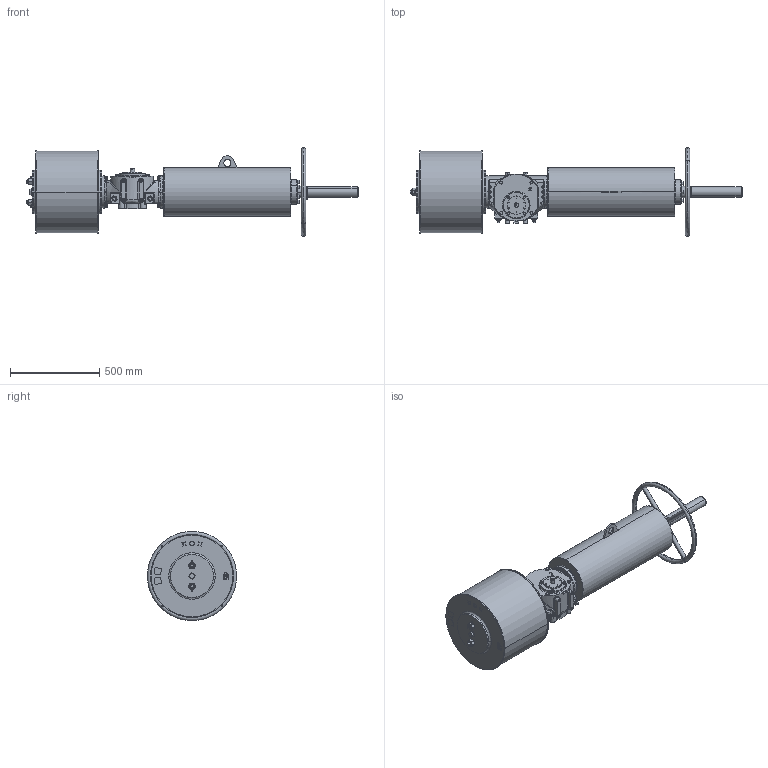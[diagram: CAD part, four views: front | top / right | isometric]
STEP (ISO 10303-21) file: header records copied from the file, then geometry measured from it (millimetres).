
FILE_DESCRIPTION (( 'STEP AP203' ), '1' );
FILE_NAME ('VTS2-450-SR-MS-FC.STEP', '2022-12-31T08:50:43', ( '' ), ( '' ), 'SwSTEP 2.0', 'SolidWorks 2020', '' );
FILE_SCHEMA (( 'CONFIG_CONTROL_DESIGN' ));
Length unit declared in the file: millimetre
Products named in the file (1): VTS2-450-SR-MS-FC
Bounding box: 1858.2 x 498.1 x 498.1 mm (x, y, z)
Volume: 114484275 mm3; surface area: 2819050.4 mm2
Topology: 48 solids, 51 shells, 2371 faces, 6016 edges, 3722 vertices
Faces by surface type: plane 828, cylinder 703, cone 554, bspline 142, torus 72, sphere 72
Entity records: 89494 total; most frequent: CARTESIAN_POINT 34062, ORIENTED_EDGE 11692, DIRECTION 11580, EDGE_CURVE 5846, AXIS2_PLACEMENT_3D 4699, VERTEX_POINT 3686, EDGE_LOOP 2616, CIRCLE 2469
